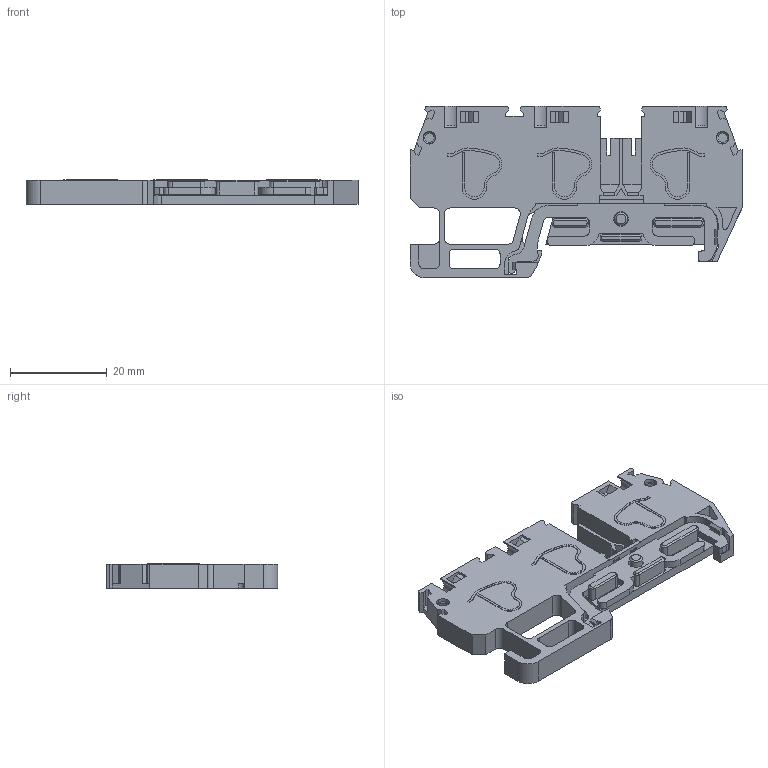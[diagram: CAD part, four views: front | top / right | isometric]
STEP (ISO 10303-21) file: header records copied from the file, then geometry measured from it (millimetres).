
FILE_DESCRIPTION (( 'STEP AP214' ), '1' );
FILE_NAME ('42451_EURO QME3_2.5.STEP', '2021-03-26T10:36:03', ( '' ), ( '' ), 'SwSTEP 2.0', 'SolidWorks 2020', '' );
FILE_SCHEMA (( 'AUTOMOTIVE_DESIGN' ));
Length unit declared in the file: millimetre
Products named in the file (1): 42451_EURO QME3_2.5
Bounding box: 68.6 x 35.4 x 5.1 mm (x, y, z)
Volume: 7043.2 mm3; surface area: 7306.4 mm2
Topology: 1 solids, 1 shells, 532 faces, 1496 edges, 979 vertices
Faces by surface type: plane 353, cylinder 146, bspline 18, cone 15
Entity records: 17745 total; most frequent: CARTESIAN_POINT 3810, ORIENTED_EDGE 2992, DIRECTION 2782, EDGE_CURVE 1496, VECTOR 1134, LINE 1134, VERTEX_POINT 979, AXIS2_PLACEMENT_3D 824
